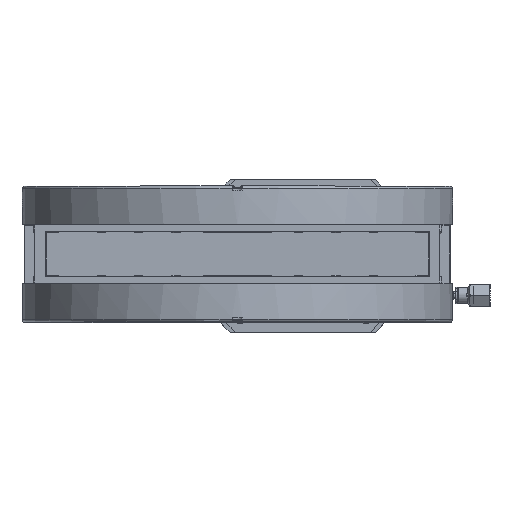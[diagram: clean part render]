
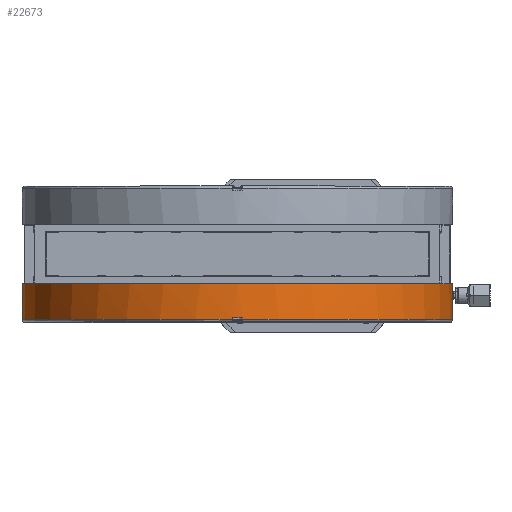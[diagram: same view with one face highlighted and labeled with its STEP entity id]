
A CAD part, top view. The second image highlights one B-rep face of the part: STEP entity #22673.
In plain terms, the highlighted cylindrical face has radius 126.6 mm (diameter 253.2 mm), a full revolution.
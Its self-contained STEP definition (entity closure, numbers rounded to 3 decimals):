
#16470=LINE('',#75199,#19870);
#16471=LINE('',#75204,#19871);
#16472=LINE('',#75208,#19872);
#16473=LINE('',#75212,#19873);
#19870=VECTOR('',#62088,1.);
#19871=VECTOR('',#62091,1.);
#19872=VECTOR('',#62094,1.);
#19873=VECTOR('',#62097,1.);
#22673=ADVANCED_FACE('BCT_REF_61925',(#25547,#25548),#24727,.T.);
#24727=CYLINDRICAL_SURFACE('',#55741,126.6);
#25547=FACE_BOUND('',#27841,.T.);
#25548=FACE_BOUND('',#27842,.T.);
#27841=EDGE_LOOP('',(#34321));
#27842=EDGE_LOOP('',(#34322,#34323,#34324,#34325,#34326,#34327,#34328,#34329));
#34321=ORIENTED_EDGE('',*,*,#49146,.T.);
#34322=ORIENTED_EDGE('',*,*,#49147,.T.);
#34323=ORIENTED_EDGE('',*,*,#49148,.T.);
#34324=ORIENTED_EDGE('',*,*,#49149,.F.);
#34325=ORIENTED_EDGE('',*,*,#49150,.F.);
#34326=ORIENTED_EDGE('',*,*,#49151,.T.);
#34327=ORIENTED_EDGE('',*,*,#49152,.T.);
#34328=ORIENTED_EDGE('',*,*,#49153,.F.);
#34329=ORIENTED_EDGE('',*,*,#49154,.T.);
#44230=VERTEX_POINT('',#75198);
#44231=VERTEX_POINT('',#75200);
#44232=VERTEX_POINT('',#75201);
#44233=VERTEX_POINT('',#75203);
#44234=VERTEX_POINT('',#75205);
#44235=VERTEX_POINT('',#75207);
#44236=VERTEX_POINT('',#75209);
#44237=VERTEX_POINT('',#75211);
#44238=VERTEX_POINT('',#75213);
#49146=EDGE_CURVE('',#44230,#44230,#53612,.T.);
#49147=EDGE_CURVE('',#44231,#44232,#16470,.T.);
#49148=EDGE_CURVE('',#44232,#44233,#53613,.T.);
#49149=EDGE_CURVE('',#44234,#44233,#16471,.T.);
#49150=EDGE_CURVE('',#44235,#44234,#53614,.T.);
#49151=EDGE_CURVE('',#44235,#44236,#16472,.T.);
#49152=EDGE_CURVE('',#44236,#44237,#53615,.T.);
#49153=EDGE_CURVE('',#44238,#44237,#16473,.T.);
#49154=EDGE_CURVE('',#44238,#44231,#53616,.T.);
#53612=CIRCLE('',#55736,126.6);
#53613=CIRCLE('',#55737,126.6);
#53614=CIRCLE('',#55738,126.6);
#53615=CIRCLE('',#55739,126.6);
#53616=CIRCLE('',#55740,126.6);
#55736=AXIS2_PLACEMENT_3D('',#75197,#62086,#62087);
#55737=AXIS2_PLACEMENT_3D('',#75202,#62089,#62090);
#55738=AXIS2_PLACEMENT_3D('',#75206,#62092,#62093);
#55739=AXIS2_PLACEMENT_3D('',#75210,#62095,#62096);
#55740=AXIS2_PLACEMENT_3D('',#75214,#62098,#62099);
#55741=AXIS2_PLACEMENT_3D('',#75215,#62100,#62101);
#62086=DIRECTION('',(0.,-1.,0.));
#62087=DIRECTION('',(0.,0.,-1.));
#62088=DIRECTION('',(0.,-1.,0.));
#62089=DIRECTION('',(0.,1.,0.));
#62090=DIRECTION('',(0.,0.,1.));
#62091=DIRECTION('',(0.,-1.,0.));
#62092=DIRECTION('',(0.,-1.,0.));
#62093=DIRECTION('',(0.,0.,-1.));
#62094=DIRECTION('',(0.,-1.,0.));
#62095=DIRECTION('',(0.,1.,0.));
#62096=DIRECTION('',(0.,0.,1.));
#62097=DIRECTION('',(0.,-1.,0.));
#62098=DIRECTION('',(0.,1.,0.));
#62099=DIRECTION('',(0.,0.,-1.));
#62100=DIRECTION('',(0.,-1.,0.));
#62101=DIRECTION('',(0.,0.,-1.));
#75197=CARTESIAN_POINT('',(0.,-17.25,412.));
#75198=CARTESIAN_POINT('',(0.,-17.25,285.4));
#75199=CARTESIAN_POINT('',(-3.,-37.45,285.436));
#75200=CARTESIAN_POINT('',(-3.,-37.45,285.436));
#75201=CARTESIAN_POINT('',(-3.,-38.45,285.436));
#75202=CARTESIAN_POINT('',(0.,-38.45,412.));
#75203=CARTESIAN_POINT('',(-3.,-38.45,538.564));
#75204=CARTESIAN_POINT('',(-3.,-37.45,538.564));
#75205=CARTESIAN_POINT('',(-3.,-37.45,538.564));
#75206=CARTESIAN_POINT('',(0.,-37.45,412.));
#75207=CARTESIAN_POINT('',(3.,-37.45,538.564));
#75208=CARTESIAN_POINT('',(3.,-37.45,538.564));
#75209=CARTESIAN_POINT('',(3.,-38.45,538.564));
#75210=CARTESIAN_POINT('',(0.,-38.45,412.));
#75211=CARTESIAN_POINT('',(3.,-38.45,285.436));
#75212=CARTESIAN_POINT('',(3.,-37.45,285.436));
#75213=CARTESIAN_POINT('',(3.,-37.45,285.436));
#75214=CARTESIAN_POINT('',(0.,-37.45,412.));
#75215=CARTESIAN_POINT('',(0.,-38.65,412.));
